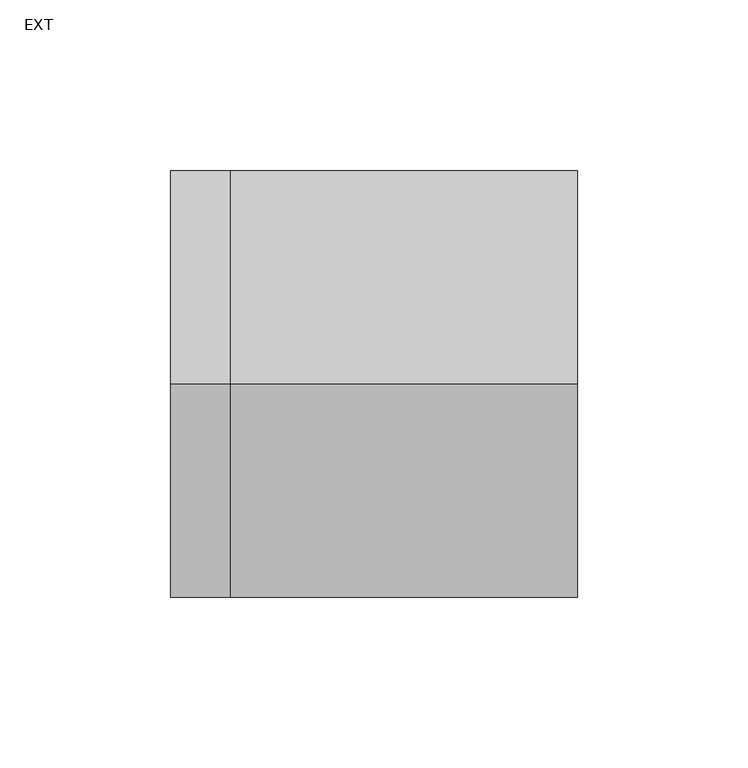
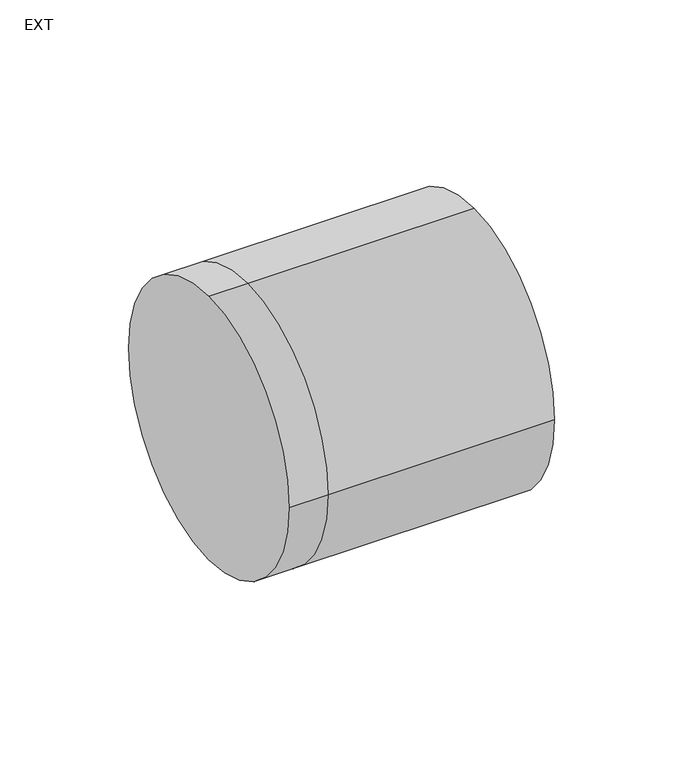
"""IFC4 building model written with IfcOpenShell, lengths in millimetres: duct fitting geometry, M_Toma de derivación redonda : EXT."""

from ifc_helpers import new_model, si_unit, frame, origin, place, context, project, spatial, circle_curve, source, transform, mapped, element, save
from ifc_brep_helpers import plane_surface, cylinder_surface, advanced_brep


def ext_dc5c11ae(model_context):
    return source(origin(), model_context, "Body", "AdvancedBrep", [
        advanced_brep(
        [(101.6, 0.0, 62.5), (101.6, -62.5, 0.0), (101.6, 0.0, -62.5), (101.6, 62.5, 0.0), (0.0, 62.5, 0.0), (0.0, 0.0, 62.5), (0.0, 0.0, -62.5), (0.0, -62.5, 0.0), (-17.6372896, 0.0, 62.5), (-17.6372896, 62.5, 0.0), (-17.6372896, 0.0, -62.5), (-17.6372896, -62.5, 0.0)],
        [
            (0, 1, circle_curve(frame((101.6, 0.0, 0.0), z_axis=(1.0, 0.0, 0.0), x_axis=(0.0, 1.0, 0.0)), 62.5)),
            (1, 2, circle_curve(frame((101.6, 0.0, 0.0), z_axis=(1.0, 0.0, 0.0), x_axis=(0.0, 1.0, 0.0)), 62.5)),
            (2, 3, circle_curve(frame((101.6, 0.0, 0.0), z_axis=(1.0, 0.0, 0.0), x_axis=(0.0, 1.0, 0.0)), 62.5)),
            (3, 0, circle_curve(frame((101.6, 0.0, 0.0), z_axis=(1.0, 0.0, 0.0), x_axis=(0.0, 1.0, 0.0)), 62.5)),
            (3, 4),
            (4, 5, circle_curve(frame((0.0, 0.0, 0.0), z_axis=(1.0, 0.0, 0.0), x_axis=(0.0, 1.0, 0.0)), 62.5)),
            (5, 0),
            (2, 6),
            (6, 4, circle_curve(frame((0.0, 0.0, 0.0), z_axis=(1.0, 0.0, 0.0), x_axis=(0.0, 1.0, 0.0)), 62.5)),
            (1, 7),
            (7, 6, circle_curve(frame((0.0, 0.0, 0.0), z_axis=(1.0, 0.0, 0.0), x_axis=(0.0, 1.0, 0.0)), 62.5)),
            (5, 7, circle_curve(frame((0.0, 0.0, 0.0), z_axis=(1.0, 0.0, 0.0), x_axis=(0.0, 1.0, 0.0)), 62.5)),
            (8, 9, circle_curve(frame((-17.6372896, 0.0, 0.0), z_axis=(-1.0, 0.0, 0.0), x_axis=(0.0, 1.0, 0.0)), 62.5)),
            (9, 10, circle_curve(frame((-17.6372896, 0.0, 0.0), z_axis=(-1.0, 0.0, 0.0), x_axis=(0.0, 1.0, 0.0)), 62.5)),
            (10, 11, circle_curve(frame((-17.6372896, 0.0, 0.0), z_axis=(-1.0, 0.0, 0.0), x_axis=(0.0, 1.0, 0.0)), 62.5)),
            (11, 8, circle_curve(frame((-17.6372896, 0.0, 0.0), z_axis=(-1.0, 0.0, 0.0), x_axis=(0.0, 1.0, 0.0)), 62.5)),
            (8, 5),
            (4, 9),
            (6, 10),
            (7, 11),
        ],
        [
            plane_surface(frame((101.6, 0.0, 0.0), z_axis=(1.0, 0.0, 0.0), x_axis=(0.0, 0.0, 1.0))),
            cylinder_surface(frame((0.0, 0.0, 0.0), z_axis=(-1.0, 0.0, 0.0), x_axis=(0.0, 1.0, 0.0)), 62.5),
            plane_surface(frame((-17.6372896, 0.0, 0.0), z_axis=(-1.0, 0.0, 0.0), x_axis=(0.0, 0.0, 1.0))),
            cylinder_surface(frame((-17.6372896, 0.0, 0.0), z_axis=(-1.0, 0.0, 0.0), x_axis=(0.0, 1.0, 0.0)), 62.5),
        ],
        [
            (0, [[1, 2, 3, 4]]),
            (1, [[-4, 5, 6, 7]]),
            (1, [[-3, 8, 9, -5]]),
            (1, [[-2, 10, 11, -8]]),
            (1, [[-1, -7, 12, -10]]),
            (2, [[13, 14, 15, 16]]),
            (3, [[-13, 17, -6, 18]]),
            (3, [[-14, -18, -9, 19]]),
            (3, [[-15, -19, -11, 20]]),
            (3, [[-16, -20, -12, -17]]),
        ],
    ),
    ])


if __name__ == "__main__":
    model = new_model("IFC4")
    model_context = context("Model", 3, world=origin())
    ifc_project = project(units=[si_unit("LENGTHUNIT", "METRE", prefix="MILLI")], contexts=[model_context])
    site = spatial("IfcSite", under=ifc_project)
    building = spatial("IfcBuilding", under=site)
    placement = place(None, origin())
    ext_shape = ext_dc5c11ae(model_context)
    element("IfcDuctFitting", 1, ObjectType="M_Toma de derivación redonda : EXT", at=placement, inside=building, context=model_context, shape_type="MappedRepresentation", body=[
        mapped(ext_shape, transform((0.0, 0.0, 0.0), x_axis=(1.0, 0.0, 0.0), y_axis=(0.0, 1.0, 0.0), z_axis=(0.0, 0.0, 1.0))),
    ])
    save(model, "model.ifc")
